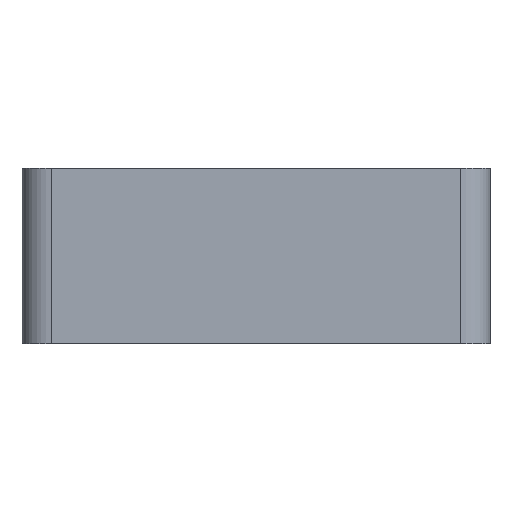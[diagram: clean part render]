
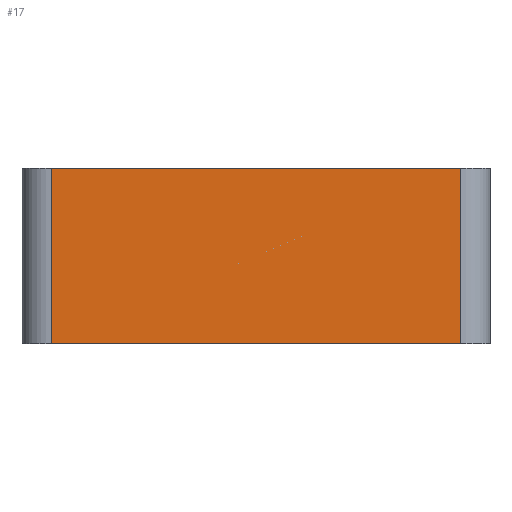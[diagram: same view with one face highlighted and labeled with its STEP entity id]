
A CAD part, left-side view. The second image highlights one B-rep face of the part: STEP entity #17.
In plain terms, the highlighted planar face has unit normal (-1, 0, 0).
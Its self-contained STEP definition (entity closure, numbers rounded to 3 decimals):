
#17 = ADVANCED_FACE('',(#18),#32,.F.);
#18 = FACE_BOUND('',#19,.F.);
#19 = EDGE_LOOP('',(#20,#55,#83,#111));
#20 = ORIENTED_EDGE('',*,*,#21,.F.);
#21 = EDGE_CURVE('',#22,#24,#26,.T.);
#22 = VERTEX_POINT('',#23);
#23 = CARTESIAN_POINT('',(0.,5.,30.));
#24 = VERTEX_POINT('',#25);
#25 = CARTESIAN_POINT('',(0.,75.,30.));
#26 = SURFACE_CURVE('',#27,(#31,#43),.PCURVE_S1.);
#27 = LINE('',#28,#29);
#28 = CARTESIAN_POINT('',(0.,0.,30.));
#29 = VECTOR('',#30,1.);
#30 = DIRECTION('',(0.,1.,0.));
#31 = PCURVE('',#32,#37);
#32 = PLANE('',#33);
#33 = AXIS2_PLACEMENT_3D('',#34,#35,#36);
#34 = CARTESIAN_POINT('',(0.,0.,0.));
#35 = DIRECTION('',(1.,0.,0.));
#36 = DIRECTION('',(0.,0.,1.));
#37 = DEFINITIONAL_REPRESENTATION('',(#38),#42);
#38 = LINE('',#39,#40);
#39 = CARTESIAN_POINT('',(30.,0.));
#40 = VECTOR('',#41,1.);
#41 = DIRECTION('',(0.,-1.));
#42 = ( GEOMETRIC_REPRESENTATION_CONTEXT(2) 
PARAMETRIC_REPRESENTATION_CONTEXT() REPRESENTATION_CONTEXT('2D SPACE',''
  ) );
#43 = PCURVE('',#44,#49);
#44 = PLANE('',#45);
#45 = AXIS2_PLACEMENT_3D('',#46,#47,#48);
#46 = CARTESIAN_POINT('',(0.,0.,30.));
#47 = DIRECTION('',(0.,0.,1.));
#48 = DIRECTION('',(1.,0.,0.));
#49 = DEFINITIONAL_REPRESENTATION('',(#50),#54);
#50 = LINE('',#51,#52);
#51 = CARTESIAN_POINT('',(0.,0.));
#52 = VECTOR('',#53,1.);
#53 = DIRECTION('',(0.,1.));
#54 = ( GEOMETRIC_REPRESENTATION_CONTEXT(2) 
PARAMETRIC_REPRESENTATION_CONTEXT() REPRESENTATION_CONTEXT('2D SPACE',''
  ) );
#55 = ORIENTED_EDGE('',*,*,#56,.F.);
#56 = EDGE_CURVE('',#57,#22,#59,.T.);
#57 = VERTEX_POINT('',#58);
#58 = CARTESIAN_POINT('',(0.,5.,0.));
#59 = SURFACE_CURVE('',#60,(#64,#71),.PCURVE_S1.);
#60 = LINE('',#61,#62);
#61 = CARTESIAN_POINT('',(0.,5.,0.));
#62 = VECTOR('',#63,1.);
#63 = DIRECTION('',(0.,0.,1.));
#64 = PCURVE('',#32,#65);
#65 = DEFINITIONAL_REPRESENTATION('',(#66),#70);
#66 = LINE('',#67,#68);
#67 = CARTESIAN_POINT('',(0.,-5.));
#68 = VECTOR('',#69,1.);
#69 = DIRECTION('',(1.,0.));
#70 = ( GEOMETRIC_REPRESENTATION_CONTEXT(2) 
PARAMETRIC_REPRESENTATION_CONTEXT() REPRESENTATION_CONTEXT('2D SPACE',''
  ) );
#71 = PCURVE('',#72,#77);
#72 = CYLINDRICAL_SURFACE('',#73,5.);
#73 = AXIS2_PLACEMENT_3D('',#74,#75,#76);
#74 = CARTESIAN_POINT('',(5.,5.,0.));
#75 = DIRECTION('',(0.,0.,1.));
#76 = DIRECTION('',(-1.,-0.,0.));
#77 = DEFINITIONAL_REPRESENTATION('',(#78),#82);
#78 = LINE('',#79,#80);
#79 = CARTESIAN_POINT('',(0.,0.));
#80 = VECTOR('',#81,1.);
#81 = DIRECTION('',(0.,1.));
#82 = ( GEOMETRIC_REPRESENTATION_CONTEXT(2) 
PARAMETRIC_REPRESENTATION_CONTEXT() REPRESENTATION_CONTEXT('2D SPACE',''
  ) );
#83 = ORIENTED_EDGE('',*,*,#84,.T.);
#84 = EDGE_CURVE('',#57,#85,#87,.T.);
#85 = VERTEX_POINT('',#86);
#86 = CARTESIAN_POINT('',(0.,75.,0.));
#87 = SURFACE_CURVE('',#88,(#92,#99),.PCURVE_S1.);
#88 = LINE('',#89,#90);
#89 = CARTESIAN_POINT('',(0.,0.,0.));
#90 = VECTOR('',#91,1.);
#91 = DIRECTION('',(0.,1.,0.));
#92 = PCURVE('',#32,#93);
#93 = DEFINITIONAL_REPRESENTATION('',(#94),#98);
#94 = LINE('',#95,#96);
#95 = CARTESIAN_POINT('',(0.,0.));
#96 = VECTOR('',#97,1.);
#97 = DIRECTION('',(0.,-1.));
#98 = ( GEOMETRIC_REPRESENTATION_CONTEXT(2) 
PARAMETRIC_REPRESENTATION_CONTEXT() REPRESENTATION_CONTEXT('2D SPACE',''
  ) );
#99 = PCURVE('',#100,#105);
#100 = PLANE('',#101);
#101 = AXIS2_PLACEMENT_3D('',#102,#103,#104);
#102 = CARTESIAN_POINT('',(0.,0.,0.));
#103 = DIRECTION('',(0.,0.,1.));
#104 = DIRECTION('',(1.,0.,0.));
#105 = DEFINITIONAL_REPRESENTATION('',(#106),#110);
#106 = LINE('',#107,#108);
#107 = CARTESIAN_POINT('',(0.,0.));
#108 = VECTOR('',#109,1.);
#109 = DIRECTION('',(0.,1.));
#110 = ( GEOMETRIC_REPRESENTATION_CONTEXT(2) 
PARAMETRIC_REPRESENTATION_CONTEXT() REPRESENTATION_CONTEXT('2D SPACE',''
  ) );
#111 = ORIENTED_EDGE('',*,*,#112,.T.);
#112 = EDGE_CURVE('',#85,#24,#113,.T.);
#113 = SURFACE_CURVE('',#114,(#118,#125),.PCURVE_S1.);
#114 = LINE('',#115,#116);
#115 = CARTESIAN_POINT('',(0.,75.,0.));
#116 = VECTOR('',#117,1.);
#117 = DIRECTION('',(0.,0.,1.));
#118 = PCURVE('',#32,#119);
#119 = DEFINITIONAL_REPRESENTATION('',(#120),#124);
#120 = LINE('',#121,#122);
#121 = CARTESIAN_POINT('',(0.,-75.));
#122 = VECTOR('',#123,1.);
#123 = DIRECTION('',(1.,0.));
#124 = ( GEOMETRIC_REPRESENTATION_CONTEXT(2) 
PARAMETRIC_REPRESENTATION_CONTEXT() REPRESENTATION_CONTEXT('2D SPACE',''
  ) );
#125 = PCURVE('',#126,#131);
#126 = CYLINDRICAL_SURFACE('',#127,5.);
#127 = AXIS2_PLACEMENT_3D('',#128,#129,#130);
#128 = CARTESIAN_POINT('',(5.,75.,0.));
#129 = DIRECTION('',(0.,0.,1.));
#130 = DIRECTION('',(-1.,-0.,0.));
#131 = DEFINITIONAL_REPRESENTATION('',(#132),#136);
#132 = LINE('',#133,#134);
#133 = CARTESIAN_POINT('',(-0.,0.));
#134 = VECTOR('',#135,1.);
#135 = DIRECTION('',(-0.,1.));
#136 = ( GEOMETRIC_REPRESENTATION_CONTEXT(2) 
PARAMETRIC_REPRESENTATION_CONTEXT() REPRESENTATION_CONTEXT('2D SPACE',''
  ) );
